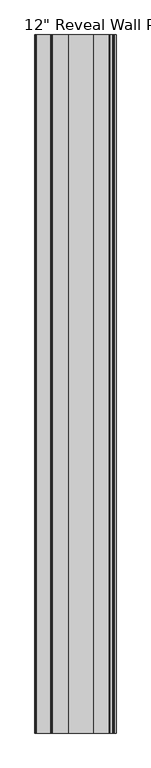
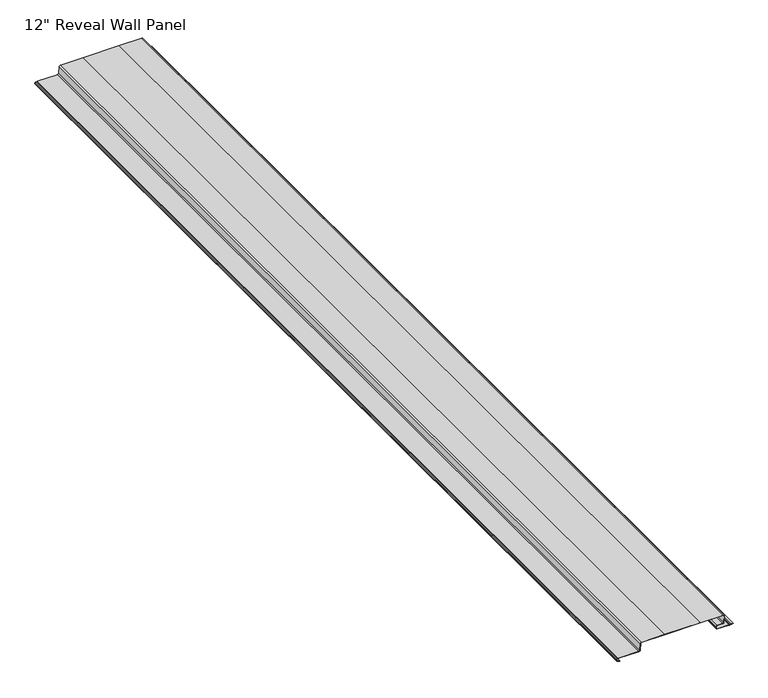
"""IFC4 building model written with IfcOpenShell, lengths in millimetres: proxy geometry."""

import ifcopenshell
import ifcopenshell.guid

model = None  # the IFC model being written
_history = None  # IfcOwnerHistory: only IFC2X3 demands one
_inside = {}  # id of a spatial element -> (the spatial element, [elements in it])
_under = {}  # id of a project, library or spatial element -> (it, [spatial elements below it])
_declared = {}  # id of a project -> (the project, [libraries it declares])
_typed = {}  # id of a type object -> (the type object, [elements of that type])
_made_of = {}  # id of a material, layer set ... -> (it, [elements and type objects made of it])


def new_model(schema):
    """Start an empty IFC model of exactly this schema.

    Asked for "IFC4X3", IfcOpenShell would pick the latest addendum, in which some entities
    have other attributes; the version numbers below select the first issue.
    IFC2X3 requires an IfcOwnerHistory on every rooted entity: one is made here for all.
    """
    global model, _history
    if schema == "IFC4X3":
        model = ifcopenshell.file(schema_version=(4, 3, 0, 0))
    else:
        model = ifcopenshell.file(schema=schema)
    _inside.clear()
    _under.clear()
    _declared.clear()
    _typed.clear()
    _made_of.clear()
    _history = None
    if model.schema == "IFC2X3":
        org = make("IfcOrganization", Name="unknown")
        user = make(
            "IfcPersonAndOrganization",
            ThePerson=make("IfcPerson", FamilyName="unknown"),
            TheOrganization=org,
        )
        app = make(
            "IfcApplication",
            ApplicationDeveloper=org,
            Version="unknown",
            ApplicationFullName="unknown",
            ApplicationIdentifier="unknown",
        )
        _history = make(
            "IfcOwnerHistory",
            OwningUser=user,
            OwningApplication=app,
            ChangeAction="ADDED",
            CreationDate=0,
        )
    return model


def make(cls, **values):
    """One entity of the class cls with the attributes given. An attribute that is None is left unset."""
    return model.create_entity(
        cls, **{name: value for name, value in values.items() if value is not None}
    )


def rooted(cls, **values):
    """An entity with a GlobalId (a new one), such as an element, a storey or a relation."""
    return make(cls, GlobalId=ifcopenshell.guid.new(), OwnerHistory=_history, **values)


def si_unit(unit_type, name, prefix=None):
    """IfcSIUnit, for example si_unit("LENGTHUNIT", "METRE", prefix="MILLI")."""
    return make("IfcSIUnit", UnitType=unit_type, Prefix=prefix, Name=name)


def assignment(units):
    """IfcUnitAssignment: the units of a project."""
    return None if units is None else make("IfcUnitAssignment", Units=units)


def point(xyz):
    """IfcCartesianPoint."""
    return None if xyz is None else make("IfcCartesianPoint", Coordinates=xyz)


def direction(xyz):
    """IfcDirection."""
    return None if xyz is None else make("IfcDirection", DirectionRatios=xyz)


def frame(location, z_axis=None, x_axis=None):
    """IfcAxis2Placement3D, a coordinate frame: its origin and axes. An axis left out is left unset."""
    return make(
        "IfcAxis2Placement3D",
        Location=point(location),
        Axis=direction(z_axis),
        RefDirection=direction(x_axis),
    )


def origin():
    """The frame at (0, 0, 0) with its axes left unset."""
    return frame((0.0, 0.0, 0.0))


def place(relative_to, where):
    """IfcLocalPlacement: puts the frame where relative to a parent placement (None: the world)."""
    return make(
        "IfcLocalPlacement", PlacementRelTo=relative_to, RelativePlacement=where
    )


def context(
    kind, dimensions, precision=None, world=None, true_north=None, identifier=None
):
    """IfcGeometricRepresentationContext, for example the 3D "Model" context."""
    return make(
        "IfcGeometricRepresentationContext",
        ContextIdentifier=identifier,
        ContextType=kind,
        CoordinateSpaceDimension=dimensions,
        Precision=precision,
        WorldCoordinateSystem=world,
        TrueNorth=true_north,
    )


def project(units=None, contexts=None):
    """IfcProject with its units and contexts."""
    return rooted(
        "IfcProject",
        Name="project",
        RepresentationContexts=contexts,
        UnitsInContext=assignment(units),
    )


def spatial(cls, under=None, at=None, **own):
    """A site, building, storey or space (cls), placed at a placement, below another one or the project."""
    s = rooted(cls, ObjectPlacement=at, **own)
    if under is not None:
        _under.setdefault(under.id(), (under, []))[1].append(s)
    return s


def polyline(points):
    """IfcPolyline through the points."""
    return make("IfcPolyline", Points=[point(p) for p in points])


def circle_curve(where, radius):
    """IfcCircle in the frame where."""
    return make("IfcCircle", Position=where, Radius=radius)


def shape(context_of_items, identifier, shape_type, items):
    """IfcShapeRepresentation: the items that make up one representation, for example the "Body"."""
    return make(
        "IfcShapeRepresentation",
        ContextOfItems=context_of_items,
        RepresentationIdentifier=identifier,
        RepresentationType=shape_type,
        Items=items,
    )


def source(mapping_origin, context_of_items, identifier, shape_type, items):
    """IfcRepresentationMap: a shape defined once, which mapped items show again and again."""
    return make(
        "IfcRepresentationMap",
        MappingOrigin=mapping_origin,
        MappedRepresentation=shape(context_of_items, identifier, shape_type, items),
    )


def transform(
    local_origin,
    x_axis=None,
    y_axis=None,
    z_axis=None,
    scale=None,
    scale2=None,
    scale3=None,
    uniform=True,
):
    """IfcCartesianTransformationOperator3D, or its non-uniform kind. x_axis, y_axis, z_axis: its Axis1, 2, 3."""
    if uniform:
        return make(
            "IfcCartesianTransformationOperator3D",
            Axis1=direction(x_axis),
            Axis2=direction(y_axis),
            LocalOrigin=point(local_origin),
            Scale=scale,
            Axis3=direction(z_axis),
        )
    return make(
        "IfcCartesianTransformationOperator3DnonUniform",
        Axis1=direction(x_axis),
        Axis2=direction(y_axis),
        LocalOrigin=point(local_origin),
        Scale=scale,
        Axis3=direction(z_axis),
        Scale2=scale2,
        Scale3=scale3,
    )


def mapped(mapping_source, mapping_target):
    """IfcMappedItem: shows the shape of a source again, moved by a transform."""
    return make(
        "IfcMappedItem", MappingSource=mapping_source, MappingTarget=mapping_target
    )


def made_of(thing, what):
    """Note that an element or type object is made of a material, layer set ...; save() writes the relation."""
    if what is not None:
        _made_of.setdefault(what.id(), (what, []))[1].append(thing)
    return thing


def element(
    cls,
    number,
    at=None,
    inside=None,
    cuts=None,
    type_object=None,
    material=None,
    context=None,
    identifier="Body",
    shape_type=None,
    held_by="IfcProductDefinitionShape",
    body=None,
    shapes=None,
    **own,
):
    """One element of the class cls, such as IfcWall. Its Tag is "e" and its number.

    at: its placement. inside: the storey or other place that contains it. cuts: it is an
    opening in that element (IfcRelVoidsElement). A single representation is given by context,
    identifier, shape_type and body (its items); several are given by shapes. held_by: the class
    of the entity that holds the representations. save() writes the other relations.
    """
    e = rooted(cls, Tag="e%d" % number, ObjectPlacement=at, **own)
    if body is not None:
        shapes = [shape(context, identifier, shape_type, body)]
    if shapes is not None:
        e.Representation = make(held_by, Representations=shapes)
    if inside is not None:
        _inside.setdefault(inside.id(), (inside, []))[1].append(e)
    if cuts is not None:
        rooted(
            "IfcRelVoidsElement", RelatingBuildingElement=cuts, RelatedOpeningElement=e
        )
    if type_object is not None:
        _typed.setdefault(type_object.id(), (type_object, []))[1].append(e)
    return made_of(e, material)


def aggregate(whole, parts):
    """IfcRelAggregates: a whole, such as a stair, and the parts it consists of."""
    return rooted("IfcRelAggregates", RelatingObject=whole, RelatedObjects=parts)


def save(model, path):
    """Write the relations noted so far, then the file.

    IfcRelAggregates (storeys below a building ...), IfcRelContainedInSpatialStructure (elements
    in a storey), IfcRelDefinesByType, IfcRelAssociatesMaterial and IfcRelDeclares: one each for
    every whole, place, type object, material and project.
    """
    for whole, parts in _under.values():
        aggregate(whole, parts)
    for where, things in _inside.values():
        rooted(
            "IfcRelContainedInSpatialStructure",
            RelatedElements=things,
            RelatingStructure=where,
        )
    for kind, things in _typed.values():
        rooted("IfcRelDefinesByType", RelatedObjects=things, RelatingType=kind)
    for what, things in _made_of.values():
        rooted("IfcRelAssociatesMaterial", RelatedObjects=things, RelatingMaterial=what)
    for by, libraries in _declared.values():
        rooted("IfcRelDeclares", RelatingContext=by, RelatedDefinitions=libraries)
    model.write(path)


def plane_surface(at):
    """IfcPlane: the flat surface through the origin of the frame at, square to its z axis."""
    return make("IfcPlane", Position=at)


def cylinder_surface(at, radius):
    """IfcCylindricalSurface: all points at the distance radius from the z axis of the frame at."""
    return make("IfcCylindricalSurface", Position=at, Radius=radius)


def revolved_surface(curve, axis_point, axis_direction):
    """IfcSurfaceOfRevolution: the curve turned about the line through axis_point along axis_direction."""
    return make(
        "IfcSurfaceOfRevolution",
        SweptCurve=make("IfcArbitraryOpenProfileDef", ProfileType="CURVE", Curve=curve),
        AxisPosition=make("IfcAxis1Placement", Location=point(axis_point), Axis=direction(axis_direction)),
    )


def advanced_brep(points, edges, surfaces, faces):
    """IfcAdvancedBrep: a solid bounded by faces that lie on surfaces and meet in shared edges.

    An edge is (start, end): straight between two places in points (the first is 0);
    or (start, end, curve); or (start, end, curve, False) where it runs against its curve.
    A face is (place in surfaces, loops), or (place, loops, False) where it looks against
    its surface's normal. A loop lists edges by number (the first is 1), with a minus sign
    where the edge is run from its end to its start. The first loop is the outer one.
    """
    corners = [point(p) for p in points]
    vertices = [make("IfcVertexPoint", VertexGeometry=c) for c in corners]
    made = []
    for start, end, *more in edges:
        made.append(
            make(
                "IfcEdgeCurve",
                EdgeStart=vertices[start],
                EdgeEnd=vertices[end],
                EdgeGeometry=more[0] if more else make("IfcPolyline", Points=[corners[start], corners[end]]),
                SameSense=more[1] if len(more) > 1 else True,
            )
        )
    hull = []
    for where, loops, *sense in faces:
        bounds = []
        for j, loop in enumerate(loops):
            ring = [make("IfcOrientedEdge", EdgeElement=made[abs(k) - 1], Orientation=k > 0) for k in loop]
            bounds.append(
                make(
                    "IfcFaceOuterBound" if j == 0 else "IfcFaceBound",
                    Bound=make("IfcEdgeLoop", EdgeList=ring),
                    Orientation=True,
                )
            )
        hull.append(make("IfcAdvancedFace", Bounds=bounds, FaceSurface=surfaces[where], SameSense=sense[0] if sense else True))
    return make("IfcAdvancedBrep", Outer=make("IfcClosedShell", CfsFaces=hull))


def proxy_6c993777(model_context):
    return source(origin(), model_context, "Body", "AdvancedBrep", [
        advanced_brep(
        [(-198.7547211, -3048.0, 3.7242703), (-189.4843346, -3048.0, 0.5644947), (-189.194247, -3048.0, 1.4155751), (-198.4646336, -3048.0, 4.5753508), (-199.9233445, -3048.0, 6.6828416), (-198.4939681, -3048.0, 8.7773217), (-195.6112258, -3048.0, 9.8066494), (-193.7761786, -3048.0, 10.12444), (-132.2998441, -3048.0, 10.12444), (-127.8696152, -3048.0, 14.1809361), (-126.0830083, -3048.0, 34.43747), (-123.0628556, -3048.0, 37.2035012), (-54.1053809, -3048.0, 37.2035012), (54.0107313, -3048.0, 37.20084), (123.0540042, -3048.0, 37.20084), (126.0938626, -3048.0, 33.9974885), (125.0907645, -3048.0, 14.8582693), (122.0509066, -3048.0, 11.97356), (106.3216484, -3048.0, 11.97356), (102.2536799, -3048.0, 7.9055915), (102.2536799, -3048.0, 3.9308085), (106.3216484, -3048.0, -0.13716), (139.8164818, -3048.0, -0.13716), (141.3747019, -3048.0, -0.7731706), (143.2602599, -3048.0, -0.7731706), (144.81848, -3048.0, -0.13716), (148.8421311, -3048.0, -0.13716), (153.568983, -3048.0, 1.1293858), (153.336265, -3048.0, 1.9979081), (148.7237554, -3048.0, 0.762), (144.6420429, -3048.0, 0.762), (142.9228086, -3048.0, 0.0602691), (141.7121532, -3048.0, 0.0602691), (139.9929189, -3048.0, 0.762), (106.3278397, -3048.0, 0.762), (103.1528399, -3048.0, 3.9369998), (103.1528399, -3048.0, 7.8994002), (106.3278397, -3048.0, 11.0744), (122.0567819, -3048.0, 11.0744), (125.9883846, -3048.0, 14.8053411), (126.9921317, -3048.0, 33.9569429), (123.0605284, -3048.0, 38.1), (53.6543481, -3048.0, 38.1), (-53.7774721, -3048.0, 38.1), (-123.0689632, -3048.0, 38.1), (-126.977312, -3048.0, 34.5213584), (-128.7647961, -3048.0, 14.2656231), (-132.3055131, -3048.0, 11.0236), (-193.7772508, -3048.0, 11.0236), (-195.9125782, -3048.0, 10.6538074), (-198.7963302, -3048.0, 9.6241191), (-200.8185197, -3048.0, 6.6814543), (-198.7547211, 0.0, 3.7242703), (-200.8185197, 0.0, 6.6814543), (-198.7963302, 0.0, 9.6241191), (-195.9125782, 0.0, 10.6538074), (-193.7772508, 0.0, 11.0236), (-132.3055131, 0.0, 11.0236), (-128.7647961, 0.0, 14.2656231), (-126.977312, 0.0, 34.5213584), (-123.0689632, 0.0, 38.1), (-53.7774721, 0.0, 38.1), (53.6543481, 0.0, 38.1), (123.0605284, 0.0, 38.1), (126.9921317, 0.0, 33.9569429), (125.9883846, 0.0, 14.8053411), (122.0567819, 0.0, 11.0744), (106.3278397, 0.0, 11.0744), (103.1528399, 0.0, 7.8994002), (103.1528399, 0.0, 3.9369998), (106.3278397, 0.0, 0.762), (139.9929189, 0.0, 0.762), (141.7121532, 0.0, 0.0602691), (142.9228086, 0.0, 0.0602691), (144.6420429, 0.0, 0.762), (148.7237554, 0.0, 0.762), (153.336265, 0.0, 1.9979081), (153.568983, 0.0, 1.1293858), (148.8421311, 0.0, -0.13716), (144.81848, 0.0, -0.13716), (143.2602599, 0.0, -0.7731706), (141.3747019, 0.0, -0.7731706), (139.8164818, 0.0, -0.13716), (106.3216484, 0.0, -0.13716), (102.2536799, 0.0, 3.9308085), (102.2536799, 0.0, 7.9055915), (106.3216484, 0.0, 11.97356), (122.0509066, 0.0, 11.97356), (125.0907645, 0.0, 14.8582693), (126.0938626, 0.0, 33.9974885), (123.0540042, 0.0, 37.20084), (54.0107313, 0.0, 37.20084), (-54.1053809, 0.0, 37.20084), (-123.0628556, 0.0, 37.2035012), (-126.0830083, 0.0, 34.43747), (-127.8696152, 0.0, 14.1809361), (-132.2998441, 0.0, 10.12444), (-193.7761786, 0.0, 10.12444), (-195.6112258, 0.0, 9.8066494), (-198.4939681, 0.0, 8.7773217), (-199.9233445, 0.0, 6.6828416), (-198.4646336, 0.0, 4.5753508), (-189.194247, 0.0, 1.4155751), (-189.4843346, 0.0, 0.5644947)],
        [
            (0, 1),
            (1, 2),
            (2, 3),
            (3, 4, circle_curve(frame((-197.769376, -3048.0, 6.6151497), z_axis=(0.0, 1.0, 0.0), x_axis=(1.0, 0.0, 0.0)), 2.155032)),
            (4, 5, circle_curve(frame((-197.7692918, -3048.0, 6.7477884), z_axis=(0.0, 1.0, 0.0), x_axis=(1.0, 0.0, 0.0)), 2.1550316)),
            (5, 6),
            (6, 7, circle_curve(frame((-193.7761786, -3048.0, 4.6674035), z_axis=(0.0, 1.0, 0.0), x_axis=(1.0, 0.0, 0.0)), 5.4570365)),
            (7, 8),
            (8, 9, circle_curve(frame((-132.2998441, -3048.0, 14.5718853), z_axis=(0.0, -1.0, 0.0), x_axis=(1.0, 0.0, 0.0)), 4.4474453)),
            (9, 10),
            (10, 11, circle_curve(frame((-123.0628556, -3048.0, 34.1716751), z_axis=(0.0, 1.0, 0.0), x_axis=(1.0, 0.0, 0.0)), 3.0318261)),
            (11, 12),
            (12, 13),
            (13, 14),
            (14, 15, circle_curve(frame((123.0540042, -3048.0, 34.1568093), z_axis=(0.0, 1.0, 0.0), x_axis=(1.0, 0.0, 0.0)), 3.0440307)),
            (15, 16),
            (16, 17, circle_curve(frame((122.0509066, -3048.0, 15.0175901), z_axis=(0.0, 1.0, 0.0), x_axis=(1.0, 0.0, 0.0)), 3.0440301)),
            (17, 18),
            (18, 19, circle_curve(frame((106.3216484, -3048.0, 7.9055915), z_axis=(0.0, -1.0, 0.0), x_axis=(1.0, 0.0, 0.0)), 4.0679685)),
            (19, 20),
            (20, 21, circle_curve(frame((106.3216484, -3048.0, 3.9308085), z_axis=(0.0, -1.0, 0.0), x_axis=(1.0, 0.0, 0.0)), 4.0679685)),
            (21, 22),
            (22, 23),
            (23, 24, circle_curve(frame((142.3174809, -3048.0, 1.5366294), z_axis=(0.0, -1.0, 0.0), x_axis=(1.0, 0.0, 0.0)), 2.4947962)),
            (24, 25),
            (25, 26),
            (26, 27),
            (27, 28),
            (28, 29),
            (29, 30),
            (30, 31),
            (31, 32, circle_curve(frame((142.3174809, -3048.0, 1.5433165), z_axis=(0.0, 1.0, 0.0), x_axis=(1.0, 0.0, 0.0)), 1.6018275)),
            (32, 33),
            (33, 34),
            (34, 35, circle_curve(frame((106.3278397, -3048.0, 3.9369998), z_axis=(0.0, 1.0, 0.0), x_axis=(1.0, 0.0, 0.0)), 3.1749998)),
            (35, 36),
            (36, 37, circle_curve(frame((106.3278397, -3048.0, 7.8994002), z_axis=(0.0, 1.0, 0.0), x_axis=(1.0, 0.0, 0.0)), 3.1749998)),
            (37, 38),
            (38, 39, circle_curve(frame((122.0567819, -3048.0, 15.0113988), z_axis=(0.0, -1.0, 0.0), x_axis=(1.0, 0.0, 0.0)), 3.9369988)),
            (39, 40),
            (40, 41, circle_curve(frame((123.0605284, -3048.0, 34.1630006), z_axis=(0.0, -1.0, 0.0), x_axis=(1.0, 0.0, 0.0)), 3.9369994)),
            (41, 42),
            (42, 43),
            (43, 44),
            (44, 45, circle_curve(frame((-123.0689632, -3048.0, 34.1764629), z_axis=(0.0, -1.0, 0.0), x_axis=(1.0, 0.0, 0.0)), 3.9235371)),
            (45, 46),
            (46, 47, circle_curve(frame((-132.3055131, -3048.0, 14.5780766), z_axis=(0.0, 1.0, 0.0), x_axis=(1.0, 0.0, 0.0)), 3.5544766)),
            (47, 48),
            (48, 49, circle_curve(frame((-193.7772508, -3048.0, 4.6735948), z_axis=(0.0, -1.0, 0.0), x_axis=(1.0, 0.0, 0.0)), 6.3500052)),
            (49, 50),
            (50, 51, circle_curve(frame((-197.7713738, -3048.0, 6.7536191), z_axis=(0.0, -1.0, 0.0), x_axis=(1.0, 0.0, 0.0)), 3.0480004)),
            (51, 0, circle_curve(frame((-197.7713734, -3048.0, 6.6092895), z_axis=(0.0, -1.0, 0.0), x_axis=(1.0, 0.0, 0.0)), 3.0480007)),
            (52, 53, circle_curve(frame((-197.7713734, 0.0, 6.6092895), z_axis=(0.0, 1.0, 0.0), x_axis=(1.0, 0.0, 0.0)), 3.0480007)),
            (53, 54, circle_curve(frame((-197.7713738, 0.0, 6.7536191), z_axis=(0.0, 1.0, 0.0), x_axis=(1.0, 0.0, 0.0)), 3.0480004)),
            (54, 55),
            (55, 56, circle_curve(frame((-193.7772508, 0.0, 4.6735948), z_axis=(0.0, 1.0, 0.0), x_axis=(1.0, 0.0, 0.0)), 6.3500052)),
            (56, 57),
            (57, 58, circle_curve(frame((-132.3055131, 0.0, 14.5780766), z_axis=(0.0, -1.0, 0.0), x_axis=(1.0, 0.0, 0.0)), 3.5544766)),
            (58, 59),
            (59, 60, circle_curve(frame((-123.0689632, 0.0, 34.1764629), z_axis=(0.0, 1.0, 0.0), x_axis=(1.0, 0.0, 0.0)), 3.9235371)),
            (60, 61),
            (61, 62),
            (62, 63),
            (63, 64, circle_curve(frame((123.0605284, 0.0, 34.1630006), z_axis=(0.0, 1.0, 0.0), x_axis=(1.0, 0.0, 0.0)), 3.9369994)),
            (64, 65),
            (65, 66, circle_curve(frame((122.0567819, 0.0, 15.0113988), z_axis=(0.0, 1.0, 0.0), x_axis=(1.0, 0.0, 0.0)), 3.9369988)),
            (66, 67),
            (67, 68, circle_curve(frame((106.3278397, 0.0, 7.8994002), z_axis=(0.0, -1.0, 0.0), x_axis=(1.0, 0.0, 0.0)), 3.1749998)),
            (68, 69),
            (69, 70, circle_curve(frame((106.3278397, 0.0, 3.9369998), z_axis=(0.0, -1.0, 0.0), x_axis=(1.0, 0.0, 0.0)), 3.1749998)),
            (70, 71),
            (71, 72),
            (72, 73, circle_curve(frame((142.3174809, 0.0, 1.5433165), z_axis=(0.0, -1.0, 0.0), x_axis=(1.0, 0.0, 0.0)), 1.6018275)),
            (73, 74),
            (74, 75),
            (75, 76),
            (76, 77),
            (77, 78),
            (78, 79),
            (79, 80),
            (80, 81, circle_curve(frame((142.3174809, 0.0, 1.5366294), z_axis=(0.0, 1.0, 0.0), x_axis=(1.0, 0.0, 0.0)), 2.4947962)),
            (81, 82),
            (82, 83),
            (83, 84, circle_curve(frame((106.3216484, 0.0, 3.9308085), z_axis=(0.0, 1.0, 0.0), x_axis=(1.0, 0.0, 0.0)), 4.0679685)),
            (84, 85),
            (85, 86, circle_curve(frame((106.3216484, 0.0, 7.9055915), z_axis=(0.0, 1.0, 0.0), x_axis=(1.0, 0.0, 0.0)), 4.0679685)),
            (86, 87),
            (87, 88, circle_curve(frame((122.0509066, 0.0, 15.0175901), z_axis=(0.0, -1.0, 0.0), x_axis=(1.0, 0.0, 0.0)), 3.0440301)),
            (88, 89),
            (89, 90, circle_curve(frame((123.0540042, 0.0, 34.1568093), z_axis=(0.0, -1.0, 0.0), x_axis=(1.0, 0.0, 0.0)), 3.0440307)),
            (90, 91),
            (91, 92),
            (92, 93),
            (93, 94, circle_curve(frame((-123.0628556, 0.0, 34.1716751), z_axis=(0.0, -1.0, 0.0), x_axis=(1.0, 0.0, 0.0)), 3.0318261)),
            (94, 95),
            (95, 96, circle_curve(frame((-132.2998441, 0.0, 14.5718853), z_axis=(0.0, 1.0, 0.0), x_axis=(1.0, 0.0, 0.0)), 4.4474453)),
            (96, 97),
            (97, 98, circle_curve(frame((-193.7761786, 0.0, 4.6674035), z_axis=(0.0, -1.0, 0.0), x_axis=(1.0, 0.0, 0.0)), 5.4570365)),
            (98, 99),
            (99, 100, circle_curve(frame((-197.7692918, 0.0, 6.7477884), z_axis=(0.0, -1.0, 0.0), x_axis=(1.0, 0.0, 0.0)), 2.1550316)),
            (100, 101, circle_curve(frame((-197.769376, 0.0, 6.6151497), z_axis=(0.0, -1.0, 0.0), x_axis=(1.0, 0.0, 0.0)), 2.155032)),
            (101, 102),
            (102, 103),
            (103, 52),
            (0, 52),
            (103, 1),
            (102, 2),
            (101, 3),
            (100, 4),
            (99, 5),
            (98, 6),
            (97, 7),
            (96, 8),
            (95, 9),
            (94, 10),
            (93, 11),
            (13, 91),
            (90, 14),
            (89, 15),
            (88, 16),
            (87, 17),
            (86, 18),
            (85, 19),
            (84, 20),
            (83, 21),
            (82, 22),
            (81, 23),
            (80, 24),
            (79, 25),
            (78, 26),
            (77, 27),
            (76, 28),
            (75, 29),
            (74, 30),
            (73, 31),
            (72, 32),
            (71, 33),
            (70, 34),
            (69, 35),
            (68, 36),
            (67, 37),
            (66, 38),
            (65, 39),
            (64, 40),
            (63, 41),
            (42, 62),
            (61, 43),
            (60, 44),
            (59, 45),
            (58, 46),
            (57, 47),
            (56, 48),
            (55, 49),
            (54, 50),
            (53, 51),
            (92, 12),
        ],
        [
            plane_surface(frame((-189.4843346, -3048.0, 0.5644947), z_axis=(0.0, -1.0000000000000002, 0.0), x_axis=(0.9465283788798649, 0.0, -0.3226205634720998))),
            plane_surface(frame((-189.4843346, 0.0, 0.5644947), z_axis=(0.0, 1.0000000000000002, 0.0), x_axis=(-0.9465283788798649, 0.0, 0.3226205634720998))),
            plane_surface(frame((-198.7547211, -3048.0, 3.7242703), z_axis=(-0.3226205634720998, 0.0, -0.9465283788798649), x_axis=(0.0, 1.0, 0.0))),
            plane_surface(frame((-189.4843346, -3048.0, 0.5644947), z_axis=(0.9465283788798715, 0.0, -0.3226205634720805), x_axis=(0.0, 1.0, 0.0))),
            plane_surface(frame((-189.194247, -3048.0, 1.4155751), z_axis=(0.3226205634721, 0.0, 0.9465283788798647), x_axis=(0.0, 1.0, 0.0))),
            revolved_surface(polyline([(-195.614344, 0.0, 6.6151497), (-195.614344, -3048.0, 6.6151497)]), (-197.769376, 0.0, 6.6151497), (0.0, 1.0, 0.0)),
            revolved_surface(polyline([(-195.6142602, 0.0, 6.7477884), (-195.6142602, -3048.0, 6.7477884)]), (-197.7692918, 0.0, 6.7477884), (0.0, 1.0, 0.0)),
            plane_surface(frame((-198.4939681, -3048.0, 8.7773217), z_axis=(0.3362717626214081, 0.0, -0.9417649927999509), x_axis=(0.0, 1.0, 0.0))),
            revolved_surface(polyline([(-188.31914210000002, 0.0, 4.6674035), (-188.31914210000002, -3048.0, 4.6674035)]), (-193.7761786, 0.0, 4.6674035), (0.0, 1.0, 0.0)),
            plane_surface(frame((-193.7761786, -3048.0, 10.12444), z_axis=(0.0, 0.0, -1.0), x_axis=(0.0, 1.0, 0.0))),
            cylinder_surface(frame((-132.2998441, 0.0, 14.5718853), z_axis=(0.0, -1.0, 0.0), x_axis=(1.0, 0.0, 0.0)), 4.4474453),
            plane_surface(frame((-127.8696152, -3048.0, 14.1809361), z_axis=(0.9961330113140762, 0.0, -0.08785797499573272), x_axis=(0.0, 1.0, 0.0))),
            revolved_surface(polyline([(-120.0310295, 0.0, 34.1716751), (-120.0310295, -3048.0, 34.1716751)]), (-123.0628556, 0.0, 34.1716751), (0.0, 1.0, 0.0)),
            plane_surface(frame((54.0107313, -3048.0, 37.20084), z_axis=(0.0, 0.0, -1.0), x_axis=(0.0, 1.0, 0.0))),
            revolved_surface(polyline([(126.09803489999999, 0.0, 34.1568093), (126.09803489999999, -3048.0, 34.1568093)]), (123.0540042, 0.0, 34.1568093), (0.0, 1.0, 0.0)),
            plane_surface(frame((126.0938626, -3048.0, 33.9974885), z_axis=(-0.9986293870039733, 0.0, 0.05233877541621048), x_axis=(0.0, 1.0, 0.0))),
            revolved_surface(polyline([(125.0949367, 0.0, 15.0175901), (125.0949367, -3048.0, 15.0175901)]), (122.0509066, 0.0, 15.0175901), (0.0, 1.0, 0.0)),
            plane_surface(frame((122.0509066, -3048.0, 11.97356), z_axis=(0.0, 0.0, 1.0), x_axis=(0.0, 1.0, 0.0))),
            cylinder_surface(frame((106.3216484, 0.0, 7.9055915), z_axis=(0.0, -1.0, 0.0), x_axis=(1.0, 0.0, 0.0)), 4.0679685),
            plane_surface(frame((102.2536799, -3048.0, 7.9055915), z_axis=(-1.0, 0.0, 0.0), x_axis=(0.0, 1.0, 0.0))),
            cylinder_surface(frame((106.3216484, 0.0, 3.9308085), z_axis=(0.0, -1.0, 0.0), x_axis=(1.0, 0.0, 0.0)), 4.0679685),
            plane_surface(frame((106.3216484, -3048.0, -0.13716), z_axis=(0.0, 0.0, -1.0), x_axis=(0.0, 1.0, 0.0))),
            plane_surface(frame((139.8164818, -3048.0, -0.13716), z_axis=(-0.37789820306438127, 0.0, -0.9258471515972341), x_axis=(0.0, 1.0, 0.0))),
            cylinder_surface(frame((142.3174809, 0.0, 1.5366294), z_axis=(0.0, -1.0, 0.0), x_axis=(1.0, 0.0, 0.0)), 2.4947962),
            plane_surface(frame((143.2602599, -3048.0, -0.7731706), z_axis=(0.37789820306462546, 0.0, -0.9258471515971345), x_axis=(0.0, 1.0, 0.0))),
            plane_surface(frame((144.81848, -3048.0, -0.13716), z_axis=(0.0, 0.0, -1.0), x_axis=(0.0, 1.0, 0.0))),
            plane_surface(frame((148.8421311, -3048.0, -0.13716), z_axis=(0.2588170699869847, 0.0, -0.9659263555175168), x_axis=(0.0, 1.0, 0.0))),
            plane_surface(frame((153.568983, -3048.0, 1.1293858), z_axis=(0.9659263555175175, 0.0, 0.25881706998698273), x_axis=(0.0, 1.0, 0.0))),
            plane_surface(frame((153.336265, -3048.0, 1.9979081), z_axis=(-0.25881706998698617, 0.0, 0.9659263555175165), x_axis=(0.0, 1.0, 0.0))),
            plane_surface(frame((148.7237554, -3048.0, 0.762), z_axis=(0.0, 0.0, 1.0), x_axis=(0.0, 1.0, 0.0))),
            plane_surface(frame((144.6420429, -3048.0, 0.762), z_axis=(-0.3778982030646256, 0.0, 0.9258471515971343), x_axis=(0.0, 1.0, 0.0))),
            revolved_surface(polyline([(143.9193084, 0.0, 1.5433165), (143.9193084, -3048.0, 1.5433165)]), (142.3174809, 0.0, 1.5433165), (0.0, 1.0, 0.0)),
            plane_surface(frame((141.7121532, -3048.0, 0.0602691), z_axis=(0.3778982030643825, 0.0, 0.9258471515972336), x_axis=(0.0, 1.0, 0.0))),
            plane_surface(frame((139.9929189, -3048.0, 0.762), z_axis=(0.0, 0.0, 1.0), x_axis=(0.0, 1.0, 0.0))),
            revolved_surface(polyline([(109.5028395, 0.0, 3.9369998), (109.5028395, -3048.0, 3.9369998)]), (106.3278397, 0.0, 3.9369998), (0.0, 1.0, 0.0)),
            plane_surface(frame((103.1528399, -3048.0, 3.9369998), z_axis=(1.0, 0.0, 0.0), x_axis=(0.0, 1.0, 0.0))),
            revolved_surface(polyline([(109.5028395, 0.0, 7.8994002), (109.5028395, -3048.0, 7.8994002)]), (106.3278397, 0.0, 7.8994002), (0.0, 1.0, 0.0)),
            plane_surface(frame((106.3278397, -3048.0, 11.0744), z_axis=(0.0, 0.0, -1.0), x_axis=(0.0, 1.0, 0.0))),
            cylinder_surface(frame((122.0567819, 0.0, 15.0113988), z_axis=(0.0, -1.0, 0.0), x_axis=(1.0, 0.0, 0.0)), 3.9369988),
            plane_surface(frame((125.9883846, -3048.0, 14.8053411), z_axis=(0.9986293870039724, 0.0, -0.052338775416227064), x_axis=(0.0, 1.0, 0.0))),
            cylinder_surface(frame((123.0605284, 0.0, 34.1630006), z_axis=(0.0, -1.0, 0.0), x_axis=(1.0, 0.0, 0.0)), 3.9369994),
            plane_surface(frame((53.6543481, -3048.0, 38.1), z_axis=(0.0, 0.0, 1.0), x_axis=(0.0, 1.0, 0.0))),
            plane_surface(frame((-53.7774721, -3048.0, 38.1), z_axis=(0.0, 0.0, 1.0), x_axis=(0.0, 1.0, 0.0))),
            cylinder_surface(frame((-123.0689632, 0.0, 34.1764629), z_axis=(0.0, -1.0, 0.0), x_axis=(1.0, 0.0, 0.0)), 3.9235371),
            plane_surface(frame((-126.977312, -3048.0, 34.5213584), z_axis=(-0.9961289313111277, 0.0, 0.08790422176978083), x_axis=(0.0, 1.0, 0.0))),
            revolved_surface(polyline([(-128.75103650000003, 0.0, 14.5780766), (-128.75103650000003, -3048.0, 14.5780766)]), (-132.3055131, 0.0, 14.5780766), (0.0, 1.0, 0.0)),
            plane_surface(frame((-132.3055131, -3048.0, 11.0236), z_axis=(0.0, 0.0, 1.0), x_axis=(0.0, 1.0, 0.0))),
            cylinder_surface(frame((-193.7772508, 0.0, 4.6735948), z_axis=(0.0, -1.0, 0.0), x_axis=(1.0, 0.0, 0.0)), 6.3500052),
            plane_surface(frame((-195.9125782, -3048.0, 10.6538074), z_axis=(-0.33627176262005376, 0.0, 0.9417649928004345), x_axis=(0.0, 1.0, 0.0))),
            cylinder_surface(frame((-197.7713738, 0.0, 6.7536191), z_axis=(0.0, -1.0, 0.0), x_axis=(1.0, 0.0, 0.0)), 3.0480004),
            cylinder_surface(frame((-197.7713734, 0.0, 6.6092895), z_axis=(0.0, -1.0, 0.0), x_axis=(1.0, 0.0, 0.0)), 3.0480007),
            plane_surface(frame((-123.0628556, -3048.0, 37.2035012), z_axis=(0.0, 0.0, -1.0), x_axis=(0.0, 1.0, 0.0))),
            plane_surface(frame((-54.1053809, -3048.0, 37.20084), z_axis=(0.0, 0.0, -1.0), x_axis=(0.0, 1.0, 0.0))),
            plane_surface(frame((123.0605284, -3048.0, 38.1), z_axis=(0.0, 0.0, 1.0), x_axis=(0.0, 1.0, 0.0))),
        ],
        [
            (0, [[1, 2, 3, 4, 5, 6, 7, 8, 9, 10, 11, 12, 13, 14, 15, 16, 17, 18, 19, 20, 21, 22, 23, 24, 25, 26, 27, 28, 29, 30, 31, 32, 33, 34, 35, 36, 37, 38, 39, 40, 41, 42, 43, 44, 45, 46, 47, 48, 49, 50, 51, 52]]),
            (1, [[53, 54, 55, 56, 57, 58, 59, 60, 61, 62, 63, 64, 65, 66, 67, 68, 69, 70, 71, 72, 73, 74, 75, 76, 77, 78, 79, 80, 81, 82, 83, 84, 85, 86, 87, 88, 89, 90, 91, 92, 93, 94, 95, 96, 97, 98, 99, 100, 101, 102, 103, 104]]),
            (2, [[-1, 105, -104, 106]]),
            (3, [[-2, -106, -103, 107]]),
            (4, [[-3, -107, -102, 108]]),
            (5, [[-4, -108, -101, 109]]),
            (6, [[-5, -109, -100, 110]]),
            (7, [[-6, -110, -99, 111]]),
            (8, [[-7, -111, -98, 112]]),
            (9, [[-8, -112, -97, 113]]),
            (10, [[-9, -113, -96, 114]]),
            (11, [[-10, -114, -95, 115]]),
            (12, [[-11, -115, -94, 116]]),
            (13, [[-14, 117, -91, 118]]),
            (14, [[-15, -118, -90, 119]]),
            (15, [[-16, -119, -89, 120]]),
            (16, [[-17, -120, -88, 121]]),
            (17, [[-18, -121, -87, 122]]),
            (18, [[-19, -122, -86, 123]]),
            (19, [[-20, -123, -85, 124]]),
            (20, [[-21, -124, -84, 125]]),
            (21, [[-22, -125, -83, 126]]),
            (22, [[-23, -126, -82, 127]]),
            (23, [[-24, -127, -81, 128]]),
            (24, [[-25, -128, -80, 129]]),
            (25, [[-26, -129, -79, 130]]),
            (26, [[-27, -130, -78, 131]]),
            (27, [[-28, -131, -77, 132]]),
            (28, [[-29, -132, -76, 133]]),
            (29, [[-30, -133, -75, 134]]),
            (30, [[-31, -134, -74, 135]]),
            (31, [[-32, -135, -73, 136]]),
            (32, [[-33, -136, -72, 137]]),
            (33, [[-34, -137, -71, 138]]),
            (34, [[-35, -138, -70, 139]]),
            (35, [[-36, -139, -69, 140]]),
            (36, [[-37, -140, -68, 141]]),
            (37, [[-38, -141, -67, 142]]),
            (38, [[-39, -142, -66, 143]]),
            (39, [[-40, -143, -65, 144]]),
            (40, [[-41, -144, -64, 145]]),
            (41, [[-43, 146, -62, 147]]),
            (42, [[-44, -147, -61, 148]]),
            (43, [[-45, -148, -60, 149]]),
            (44, [[-46, -149, -59, 150]]),
            (45, [[-47, -150, -58, 151]]),
            (46, [[-48, -151, -57, 152]]),
            (47, [[-49, -152, -56, 153]]),
            (48, [[-50, -153, -55, 154]]),
            (49, [[-51, -154, -54, 155]]),
            (50, [[-52, -155, -53, -105]]),
            (51, [[-12, -116, -93, 156]]),
            (52, [[-13, -156, -92, -117]]),
            (53, [[-42, -145, -63, -146]]),
        ],
    ),
    ])


if __name__ == "__main__":
    model = new_model("IFC4")
    model_context = context("Model", 3, world=origin())
    ifc_project = project(units=[si_unit("LENGTHUNIT", "METRE", prefix="MILLI")], contexts=[model_context])
    site = spatial("IfcSite", under=ifc_project)
    building = spatial("IfcBuilding", under=site)
    placement = place(None, origin())
    proxy_shape = proxy_6c993777(model_context)
    element("IfcBuildingElementProxy", 1, Name="Metal_Siding_Reveal-Wall-Panel_Steelscape : 12\" Reveal Wall Panel", ObjectType="Metal_Siding_Reveal-Wall-Panel_Steelscape : 12\" Reveal Wall Panel", at=placement, inside=building, context=model_context, shape_type="MappedRepresentation", body=[
        mapped(proxy_shape, transform((0.0, 0.0, 0.0), x_axis=(1.0, 0.0, 0.0), y_axis=(0.0, 1.0, 0.0), z_axis=(0.0, 0.0, 1.0))),
    ])
    save(model, "model.ifc")
